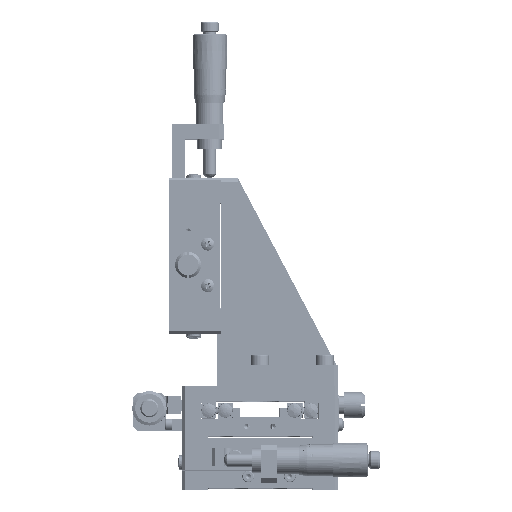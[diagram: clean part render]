
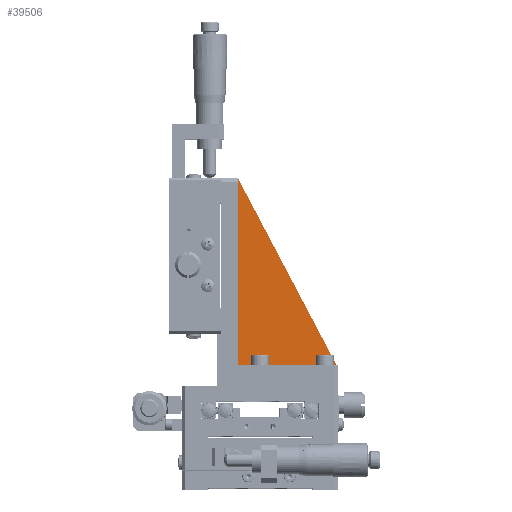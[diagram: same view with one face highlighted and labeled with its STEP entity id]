
A CAD part, top view. The second image highlights one B-rep face of the part: STEP entity #39506.
In plain terms, the highlighted planar face has unit normal (0, 0, 1).
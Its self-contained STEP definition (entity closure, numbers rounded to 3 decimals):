
#22271 = CARTESIAN_POINT ( 'NONE',  ( 14.75, 8., 5. ) ) ;
#29130 = DIRECTION ( 'NONE',  ( -0.467, 0.884, 0. ) ) ;
#31752 = EDGE_CURVE ( 'NONE', #209764, #123118, #53857, .T. ) ;
#39506 = ADVANCED_FACE ( 'NONE', ( #161056 ), #62135, .T. ) ;
#53857 = LINE ( 'NONE', #75927, #256890 ) ;
#59848 = EDGE_CURVE ( 'NONE', #220979, #209764, #109817, .T. ) ;
#62135 = PLANE ( 'NONE',  #100637 ) ;
#74657 = DIRECTION ( 'NONE',  ( 0., -1., 0. ) ) ;
#75927 = CARTESIAN_POINT ( 'NONE',  ( 14.75, 80., 5. ) ) ;
#80021 = CARTESIAN_POINT ( 'NONE',  ( 14.75, 80., 5. ) ) ;
#84700 = ORIENTED_EDGE ( 'NONE', *, *, #232345, .T. ) ;
#99881 = VECTOR ( 'NONE', #29130, 1000. ) ;
#100637 = AXIS2_PLACEMENT_3D ( 'NONE', #220870, #121963, #223463 ) ;
#109817 = LINE ( 'NONE', #189191, #99881 ) ;
#121963 = DIRECTION ( 'NONE',  ( 0., 0., 1. ) ) ;
#123118 = VERTEX_POINT ( 'NONE', #192282 ) ;
#158228 = CARTESIAN_POINT ( 'NONE',  ( 52.75, 8., 5. ) ) ;
#161056 = FACE_OUTER_BOUND ( 'NONE', #231764, .T. ) ;
#189191 = CARTESIAN_POINT ( 'NONE',  ( 14.75, 80., 5. ) ) ;
#192282 = CARTESIAN_POINT ( 'NONE',  ( 14.75, 8., 5. ) ) ;
#196179 = VECTOR ( 'NONE', #243552, 1000. ) ;
#209764 = VERTEX_POINT ( 'NONE', #80021 ) ;
#220870 = CARTESIAN_POINT ( 'NONE',  ( 10.75, 8., 5. ) ) ;
#220979 = VERTEX_POINT ( 'NONE', #158228 ) ;
#223463 = DIRECTION ( 'NONE',  ( 1., 0., 0. ) ) ;
#231764 = EDGE_LOOP ( 'NONE', ( #232884, #84700, #233324 ) ) ;
#232345 = EDGE_CURVE ( 'NONE', #123118, #220979, #242257, .T. ) ;
#232884 = ORIENTED_EDGE ( 'NONE', *, *, #31752, .T. ) ;
#233324 = ORIENTED_EDGE ( 'NONE', *, *, #59848, .T. ) ;
#242257 = LINE ( 'NONE', #22271, #196179 ) ;
#243552 = DIRECTION ( 'NONE',  ( 1., 0., 0. ) ) ;
#256890 = VECTOR ( 'NONE', #74657, 1000. ) ;
